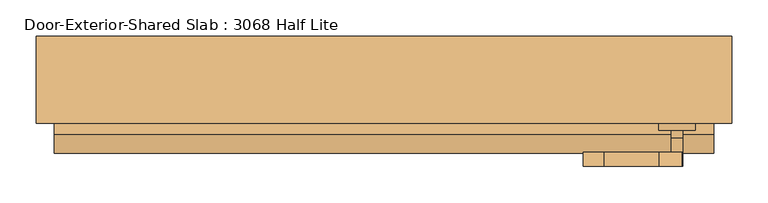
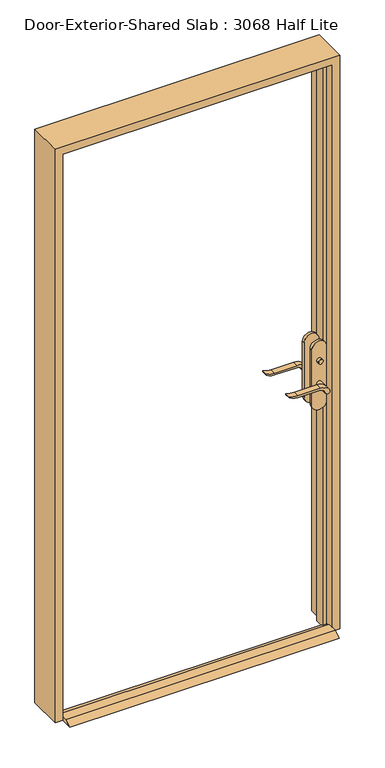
"""IFC4 building model written with IfcOpenShell, lengths in millimetres: door geometry, Door-Exterior-Shared Slab : 3068 Half Lite."""

from ifc_helpers import new_model, si_unit, point, frame, frame_2d, origin, place, context, project, spatial, polyline, circle_curve, trimmed, segment, composite_curve, outline, extrude, faceted_brep, source, transform, mapped, element, save


def door_exterior_shared_slab_3068_half_lite_cdd7a35b(model_context):
    return source(origin(), model_context, "Body", "SolidModel", [
        extrude(outline(polyline([(-38.1, 12.7), (-12.7, 0.0), (-98.425, 0.0), (-73.025, 12.7), (-38.1, 12.7)])), frame((-457.2, 0.0, 0.0), z_axis=(1.0, 0.0, 0.0), x_axis=(0.0, 1.0, 0.0)), (0.0, 0.0, 1.0), 914.4),
        extrude(outline(polyline([(411.4, -2.225), (411.4, -12.225), (401.4, -12.225), (401.4, -2.225), (411.4, -2.225)])), frame((0.0, 0.0, 981.9), z_axis=(0.0, 0.0, 1.0), x_axis=(1.0, 0.0, 0.0)), (0.0, 0.0, 1.0), 30.0),
        extrude(outline(composite_curve([segment(trimmed(circle_curve(frame_2d((996.9, 406.4)), 8.0), [point((996.9, 398.4))], [point((996.9, 414.4))], False, "CARTESIAN"), True, "CONTINUOUS"), segment(trimmed(circle_curve(frame_2d((996.9, 406.4)), 8.0), [point((996.9, 414.4))], [point((996.9, 398.4))], False, "CARTESIAN"), True, "CONTINUOUS")], self_intersect=False)), frame((0.0, -77.15, 0.0), z_axis=(0.0, 1.0, 0.0), x_axis=(0.0, 0.0, 1.0)), (0.0, 0.0, 1.0), 10.0),
        extrude(outline(composite_curve([segment(trimmed(circle_curve(frame_2d((897.1555521, 382.7324871)), 37.2832219), [point((919.0523287, 412.9081363))], [point((934.4, 381.0325667))], False, "CARTESIAN"), True, "CONTINUOUS"), segment(polyline([(934.4, 381.0325667), (934.4, 304.7564091)]), True, "CONTINUOUS"), segment(trimmed(circle_curve(frame_2d((1017.6850638, 304.8227909)), 83.2850902), [point((934.4, 304.7564091))], [point((939.4, 276.4))], True, "CARTESIAN"), True, "CONTINUOUS"), segment(polyline([(939.4, 276.4), (936.6135558, 276.4)]), True, "CONTINUOUS"), segment(trimmed(circle_curve(frame_2d((986.6709207, 308.3396612)), 59.3791355), [point((936.6135558, 276.4))], [point((927.4, 304.7564091))], False, "CARTESIAN"), True, "CONTINUOUS"), segment(polyline([(927.4, 304.7564091), (927.4, 381.0138099)]), True, "CONTINUOUS"), segment(trimmed(circle_curve(frame_2d((909.2738613, 381.0138099)), 18.1261387), [point((927.4, 381.0138099))], [point((914.4, 398.4))], True, "CARTESIAN"), True, "CONTINUOUS"), segment(trimmed(circle_curve(frame_2d((914.4, 406.4)), 8.0), [point((914.4, 398.4))], [point((919.0523287, 412.9081363))], False, "CARTESIAN"), True, "CONTINUOUS")], self_intersect=False)), frame((0.0, 17.775, 0.0), z_axis=(0.0, 1.0, 0.0), x_axis=(0.0, 0.0, 1.0)), (0.0, 0.0, 1.0), 20.0),
        extrude(outline(composite_curve([segment(trimmed(circle_curve(frame_2d((914.4, 406.4)), 8.0), [point((914.3999903, 398.4))], [point((919.0523287, 412.9081363))], False, "CARTESIAN"), True, "CONTINUOUS"), segment(trimmed(circle_curve(frame_2d((897.1555521, 382.7324871)), 37.2832219), [point((919.0523287, 412.9081363))], [point((934.4, 381.0325667))], False, "CARTESIAN"), True, "CONTINUOUS"), segment(polyline([(934.4, 381.0325667), (934.4, 304.7564091)]), True, "CONTINUOUS"), segment(trimmed(circle_curve(frame_2d((1017.6850638, 304.8227909)), 83.2850902), [point((934.4, 304.7564091))], [point((939.4, 276.4))], True, "CARTESIAN"), True, "CONTINUOUS"), segment(polyline([(939.4, 276.4), (936.6135558, 276.4)]), True, "CONTINUOUS"), segment(trimmed(circle_curve(frame_2d((986.6709207, 308.3396612)), 59.3791355), [point((936.6135558, 276.4))], [point((927.4, 304.7564091))], False, "CARTESIAN"), True, "CONTINUOUS"), segment(polyline([(927.4, 304.7564091), (927.4, 381.0138122)]), True, "CONTINUOUS"), segment(trimmed(circle_curve(frame_2d((909.2738682, 381.0138122)), 18.1261318), [point((927.4, 381.0138122))], [point((914.3999903, 398.4))], True, "CARTESIAN"), True, "CONTINUOUS")], self_intersect=False)), frame((0.0, -117.15, 0.0), z_axis=(0.0, 1.0, 0.0), x_axis=(0.0, 0.0, 1.0)), (0.0, 0.0, 1.0), 20.0),
        extrude(outline(composite_curve([segment(trimmed(circle_curve(frame_2d((914.4, 406.4)), 8.0), [point((914.4, 398.4))], [point((914.4, 414.4))], False, "CARTESIAN"), True, "CONTINUOUS"), segment(trimmed(circle_curve(frame_2d((914.4, 406.4)), 8.0), [point((914.4, 414.4))], [point((914.4, 398.4))], False, "CARTESIAN"), True, "CONTINUOUS")], self_intersect=False)), frame((0.0, -12.225, 0.0), z_axis=(0.0, 1.0, 0.0), x_axis=(0.0, 0.0, 1.0)), (0.0, 0.0, 1.0), 30.0),
        extrude(outline(composite_curve([segment(trimmed(circle_curve(frame_2d((914.4, 406.4)), 8.0), [point((914.4, 398.4))], [point((914.4, 414.4))], False, "CARTESIAN"), True, "CONTINUOUS"), segment(trimmed(circle_curve(frame_2d((914.4, 406.4)), 8.0), [point((914.4, 414.4))], [point((914.4, 398.4))], False, "CARTESIAN"), True, "CONTINUOUS")], self_intersect=False)), frame((0.0, -97.15, 0.0), z_axis=(0.0, 1.0, 0.0), x_axis=(0.0, 0.0, 1.0)), (0.0, 0.0, 1.0), 30.0),
        extrude(outline(composite_curve([segment(polyline([(844.4, 431.4), (1039.4, 431.4)]), True, "CONTINUOUS"), segment(trimmed(circle_curve(frame_2d((1039.4, 406.4)), 25.0), [point((1039.4, 431.4))], [point((1039.4, 381.4))], False, "CARTESIAN"), True, "CONTINUOUS"), segment(polyline([(1039.4, 381.4), (844.4, 381.4)]), True, "CONTINUOUS"), segment(trimmed(circle_curve(frame_2d((844.4, 406.4)), 25.0), [point((844.4, 381.4))], [point((844.4, 431.4))], False, "CARTESIAN"), True, "CONTINUOUS")], self_intersect=False)), frame((0.0, -22.225, 0.0), z_axis=(0.0, 1.0, 0.0), x_axis=(0.0, 0.0, 1.0)), (0.0, 0.0, 1.0), 10.0),
        extrude(outline(composite_curve([segment(polyline([(844.4, 431.4), (1039.4, 431.4)]), True, "CONTINUOUS"), segment(trimmed(circle_curve(frame_2d((1039.4, 406.4)), 25.0), [point((1039.4, 431.4))], [point((1039.4, 381.4))], False, "CARTESIAN"), True, "CONTINUOUS"), segment(polyline([(1039.4, 381.4), (844.4, 381.4)]), True, "CONTINUOUS"), segment(trimmed(circle_curve(frame_2d((844.4, 406.4)), 25.0), [point((844.4, 381.4))], [point((844.4, 431.4))], False, "CARTESIAN"), True, "CONTINUOUS")], self_intersect=False)), frame((0.0, -67.15, 0.0), z_axis=(0.0, 1.0, 0.0), x_axis=(0.0, 0.0, 1.0)), (0.0, 0.0, 1.0), 10.0),
        faceted_brep([(482.6, -57.15, 0.0), (457.2, -57.15, 0.0), (457.2, -22.225, 0.0), (444.5, -22.225, 0.0), (444.5, 12.7, 0.0), (457.2, 12.7, 0.0), (457.2, 63.5, 0.0), (482.6, 63.5, 0.0), (482.6, 63.5, 2057.4), (482.6, -57.15, 2057.4), (457.2, 63.5, 2032.0), (-457.2, 63.5, 2032.0), (-457.2, 63.5, 0.0), (-482.6, 63.5, 0.0), (-482.6, 63.5, 2057.4), (457.2, 12.7, 2032.0), (444.5, 12.7, 2019.3), (-444.5, 12.7, 2019.3), (-444.5, 12.7, 0.0), (-457.2, 12.7, 0.0), (-457.2, 12.7, 2032.0), (444.5, -22.225, 2019.3), (457.2, -22.225, 2032.0), (-457.2, -22.225, 2032.0), (-457.2, -22.225, 0.0), (-444.5, -22.225, 0.0), (-444.5, -22.225, 2019.3), (457.2, -57.15, 2032.0), (-482.6, -57.15, 2057.4), (-482.6, -57.15, 0.0), (-457.2, -57.15, 0.0), (-457.2, -57.15, 2032.0)], [[[0, 1, 2, 3, 4, 5, 6, 7]], [[7, 8, 9, 0]], [[6, 10, 11, 12, 13, 14, 8, 7]], [[5, 15, 10, 6]], [[4, 16, 17, 18, 19, 20, 15, 5]], [[3, 21, 16, 4]], [[2, 22, 23, 24, 25, 26, 21, 3]], [[1, 27, 22, 2]], [[0, 9, 28, 29, 30, 31, 27, 1]], [[8, 14, 28, 9]], [[15, 20, 11, 10]], [[21, 26, 17, 16]], [[27, 31, 23, 22]], [[29, 13, 12, 19, 18, 25, 24, 30]], [[14, 13, 29, 28]], [[20, 19, 12, 11]], [[26, 25, 18, 17]], [[31, 30, 24, 23]]]),
    ])


if __name__ == "__main__":
    model = new_model("IFC4")
    model_context = context("Model", 3, world=origin())
    ifc_project = project(units=[si_unit("LENGTHUNIT", "METRE", prefix="MILLI")], contexts=[model_context])
    site = spatial("IfcSite", under=ifc_project)
    building = spatial("IfcBuilding", under=site)
    placement = place(None, origin())
    door_exterior_shared_slab_3068_half_lite_shape = door_exterior_shared_slab_3068_half_lite_cdd7a35b(model_context)
    element("IfcDoor", 1, ObjectType="Door-Exterior-Shared Slab : 3068 Half Lite", at=placement, inside=building, context=model_context, shape_type="MappedRepresentation", body=[
        mapped(door_exterior_shared_slab_3068_half_lite_shape, transform((0.0, 0.0, 0.0), x_axis=(1.0, 0.0, 0.0), y_axis=(0.0, 1.0, 0.0), z_axis=(0.0, 0.0, 1.0))),
    ])
    save(model, "model.ifc")
